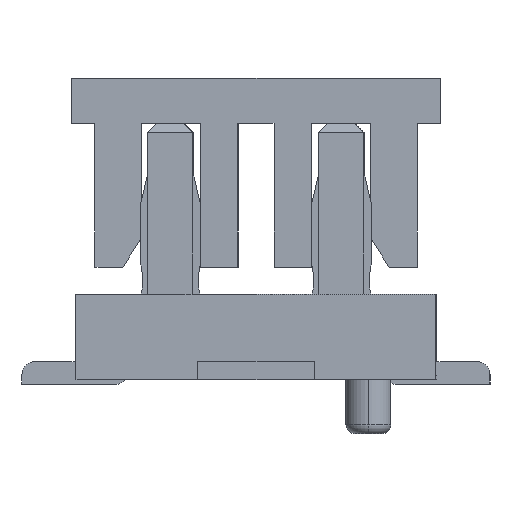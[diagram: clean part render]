
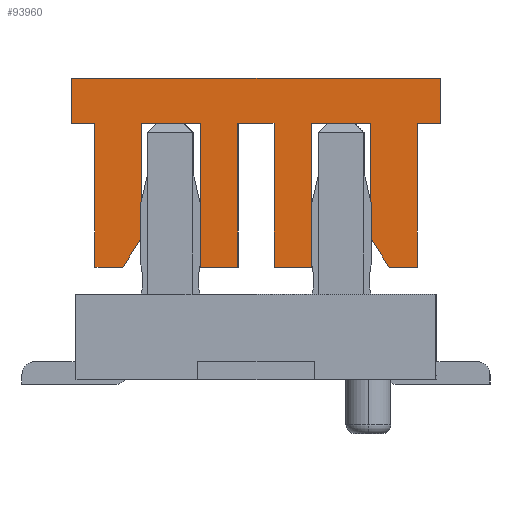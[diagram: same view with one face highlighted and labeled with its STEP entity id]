
A CAD part, left-side view. The second image highlights one B-rep face of the part: STEP entity #93960.
In plain terms, the highlighted planar face has unit normal (-1, 0, 0).
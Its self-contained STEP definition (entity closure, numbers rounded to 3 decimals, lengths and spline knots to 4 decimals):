
#93293=CARTESIAN_POINT('Vertex',(-4.,-0.62,1.25)) ;
#93298=CARTESIAN_POINT('Line Origine',(-4.,-0.41,1.25)) ;
#93302=CARTESIAN_POINT('Vertex',(-4.,-0.2,1.25)) ;
#93329=CARTESIAN_POINT('Line Origine',(-4.,-0.2,2.05)) ;
#93333=CARTESIAN_POINT('Vertex',(-4.,-0.2,2.85)) ;
#93360=CARTESIAN_POINT('Line Origine',(-4.,0.,2.85)) ;
#93364=CARTESIAN_POINT('Vertex',(-4.,0.2,2.85)) ;
#93391=CARTESIAN_POINT('Line Origine',(-4.,0.2,2.05)) ;
#93395=CARTESIAN_POINT('Vertex',(-4.,0.2,1.25)) ;
#93417=CARTESIAN_POINT('Line Origine',(-4.,0.41,1.25)) ;
#93421=CARTESIAN_POINT('Vertex',(-4.,0.62,1.25)) ;
#93448=CARTESIAN_POINT('Line Origine',(-4.,0.62,2.05)) ;
#93452=CARTESIAN_POINT('Vertex',(-4.,0.62,2.85)) ;
#93474=CARTESIAN_POINT('Line Origine',(-4.,0.945,2.85)) ;
#93478=CARTESIAN_POINT('Vertex',(-4.,1.27,2.85)) ;
#93505=CARTESIAN_POINT('Line Origine',(-4.,1.27,2.215)) ;
#93509=CARTESIAN_POINT('Vertex',(-4.,1.27,1.58)) ;
#93536=CARTESIAN_POINT('Line Origine',(-4.,1.375,1.415)) ;
#93540=CARTESIAN_POINT('Vertex',(-4.,1.48,1.25)) ;
#93562=CARTESIAN_POINT('Line Origine',(-4.,1.635,1.25)) ;
#93566=CARTESIAN_POINT('Vertex',(-4.,1.79,1.25)) ;
#93593=CARTESIAN_POINT('Line Origine',(-4.,1.79,2.05)) ;
#93597=CARTESIAN_POINT('Vertex',(-4.,1.79,2.85)) ;
#93619=CARTESIAN_POINT('Line Origine',(-4.,1.92,2.85)) ;
#93623=CARTESIAN_POINT('Vertex',(-4.,2.05,2.85)) ;
#93650=CARTESIAN_POINT('Line Origine',(-4.,2.05,3.1)) ;
#93654=CARTESIAN_POINT('Vertex',(-4.,2.05,3.35)) ;
#93681=CARTESIAN_POINT('Line Origine',(-4.,0.,3.35)) ;
#93685=CARTESIAN_POINT('Vertex',(-4.,-2.05,3.35)) ;
#93712=CARTESIAN_POINT('Line Origine',(-4.,-2.05,3.1)) ;
#93716=CARTESIAN_POINT('Vertex',(-4.,-2.05,2.85)) ;
#93738=CARTESIAN_POINT('Line Origine',(-4.,-1.92,2.85)) ;
#93742=CARTESIAN_POINT('Vertex',(-4.,-1.79,2.85)) ;
#93769=CARTESIAN_POINT('Line Origine',(-4.,-1.79,2.05)) ;
#93773=CARTESIAN_POINT('Vertex',(-4.,-1.79,1.25)) ;
#93795=CARTESIAN_POINT('Line Origine',(-4.,-1.635,1.25)) ;
#93799=CARTESIAN_POINT('Vertex',(-4.,-1.48,1.25)) ;
#93826=CARTESIAN_POINT('Line Origine',(-4.,-1.375,1.415)) ;
#93830=CARTESIAN_POINT('Vertex',(-4.,-1.27,1.58)) ;
#93857=CARTESIAN_POINT('Line Origine',(-4.,-1.27,2.215)) ;
#93861=CARTESIAN_POINT('Vertex',(-4.,-1.27,2.85)) ;
#93883=CARTESIAN_POINT('Line Origine',(-4.,-0.945,2.85)) ;
#93887=CARTESIAN_POINT('Vertex',(-4.,-0.62,2.85)) ;
#93914=CARTESIAN_POINT('Line Origine',(-4.,-0.62,2.05)) ;
#93931=CARTESIAN_POINT('Axis2P3D Location',(-4.,0.,0.)) ;
#93299=DIRECTION('Vector Direction',(0.,1.,0.)) ;
#93330=DIRECTION('Vector Direction',(0.,0.,1.)) ;
#93361=DIRECTION('Vector Direction',(0.,1.,0.)) ;
#93392=DIRECTION('Vector Direction',(0.,0.,-1.)) ;
#93418=DIRECTION('Vector Direction',(0.,1.,0.)) ;
#93449=DIRECTION('Vector Direction',(0.,0.,1.)) ;
#93475=DIRECTION('Vector Direction',(0.,1.,0.)) ;
#93506=DIRECTION('Vector Direction',(0.,0.,-1.)) ;
#93537=DIRECTION('Vector Direction',(0.,0.537,-0.844)) ;
#93563=DIRECTION('Vector Direction',(0.,1.,0.)) ;
#93594=DIRECTION('Vector Direction',(0.,0.,1.)) ;
#93620=DIRECTION('Vector Direction',(0.,1.,0.)) ;
#93651=DIRECTION('Vector Direction',(0.,0.,1.)) ;
#93682=DIRECTION('Vector Direction',(0.,1.,0.)) ;
#93713=DIRECTION('Vector Direction',(0.,0.,1.)) ;
#93739=DIRECTION('Vector Direction',(0.,-1.,0.)) ;
#93770=DIRECTION('Vector Direction',(0.,0.,1.)) ;
#93796=DIRECTION('Vector Direction',(0.,-1.,0.)) ;
#93827=DIRECTION('Vector Direction',(0.,-0.537,-0.844)) ;
#93858=DIRECTION('Vector Direction',(0.,0.,-1.)) ;
#93884=DIRECTION('Vector Direction',(0.,-1.,0.)) ;
#93915=DIRECTION('Vector Direction',(0.,0.,1.)) ;
#93932=DIRECTION('Axis2P3D Direction',(1.,0.,0.)) ;
#93933=DIRECTION('Axis2P3D XDirection',(0.,1.,0.)) ;
#93934=AXIS2_PLACEMENT_3D('Plane Axis2P3D',#93931,#93932,#93933) ;
#93937=ORIENTED_EDGE('',*,*,#93918,.F.) ;
#93938=ORIENTED_EDGE('',*,*,#93889,.F.) ;
#93939=ORIENTED_EDGE('',*,*,#93863,.F.) ;
#93940=ORIENTED_EDGE('',*,*,#93832,.F.) ;
#93941=ORIENTED_EDGE('',*,*,#93801,.F.) ;
#93942=ORIENTED_EDGE('',*,*,#93775,.F.) ;
#93943=ORIENTED_EDGE('',*,*,#93744,.F.) ;
#93944=ORIENTED_EDGE('',*,*,#93718,.F.) ;
#93945=ORIENTED_EDGE('',*,*,#93687,.F.) ;
#93946=ORIENTED_EDGE('',*,*,#93656,.F.) ;
#93947=ORIENTED_EDGE('',*,*,#93625,.F.) ;
#93948=ORIENTED_EDGE('',*,*,#93599,.F.) ;
#93949=ORIENTED_EDGE('',*,*,#93568,.F.) ;
#93950=ORIENTED_EDGE('',*,*,#93542,.F.) ;
#93951=ORIENTED_EDGE('',*,*,#93511,.F.) ;
#93952=ORIENTED_EDGE('',*,*,#93480,.F.) ;
#93953=ORIENTED_EDGE('',*,*,#93454,.F.) ;
#93954=ORIENTED_EDGE('',*,*,#93423,.F.) ;
#93955=ORIENTED_EDGE('',*,*,#93397,.F.) ;
#93956=ORIENTED_EDGE('',*,*,#93366,.F.) ;
#93957=ORIENTED_EDGE('',*,*,#93335,.F.) ;
#93958=ORIENTED_EDGE('',*,*,#93304,.F.) ;
#93300=VECTOR('Line Direction',#93299,1.) ;
#93331=VECTOR('Line Direction',#93330,1.) ;
#93362=VECTOR('Line Direction',#93361,1.) ;
#93393=VECTOR('Line Direction',#93392,1.) ;
#93419=VECTOR('Line Direction',#93418,1.) ;
#93450=VECTOR('Line Direction',#93449,1.) ;
#93476=VECTOR('Line Direction',#93475,1.) ;
#93507=VECTOR('Line Direction',#93506,1.) ;
#93538=VECTOR('Line Direction',#93537,1.) ;
#93564=VECTOR('Line Direction',#93563,1.) ;
#93595=VECTOR('Line Direction',#93594,1.) ;
#93621=VECTOR('Line Direction',#93620,1.) ;
#93652=VECTOR('Line Direction',#93651,1.) ;
#93683=VECTOR('Line Direction',#93682,1.) ;
#93714=VECTOR('Line Direction',#93713,1.) ;
#93740=VECTOR('Line Direction',#93739,1.) ;
#93771=VECTOR('Line Direction',#93770,1.) ;
#93797=VECTOR('Line Direction',#93796,1.) ;
#93828=VECTOR('Line Direction',#93827,1.) ;
#93859=VECTOR('Line Direction',#93858,1.) ;
#93885=VECTOR('Line Direction',#93884,1.) ;
#93916=VECTOR('Line Direction',#93915,1.) ;
#93960=ADVANCED_FACE('\X2\76D65B50\X0\',(#93959),#93935,.F.) ;
#93304=EDGE_CURVE('',#93294,#93303,#93301,.T.) ;
#93335=EDGE_CURVE('',#93303,#93334,#93332,.T.) ;
#93366=EDGE_CURVE('',#93334,#93365,#93363,.T.) ;
#93397=EDGE_CURVE('',#93365,#93396,#93394,.T.) ;
#93423=EDGE_CURVE('',#93396,#93422,#93420,.T.) ;
#93454=EDGE_CURVE('',#93422,#93453,#93451,.T.) ;
#93480=EDGE_CURVE('',#93453,#93479,#93477,.T.) ;
#93511=EDGE_CURVE('',#93479,#93510,#93508,.T.) ;
#93542=EDGE_CURVE('',#93510,#93541,#93539,.T.) ;
#93568=EDGE_CURVE('',#93541,#93567,#93565,.T.) ;
#93599=EDGE_CURVE('',#93567,#93598,#93596,.T.) ;
#93625=EDGE_CURVE('',#93598,#93624,#93622,.T.) ;
#93656=EDGE_CURVE('',#93624,#93655,#93653,.T.) ;
#93687=EDGE_CURVE('',#93655,#93686,#93684,.F.) ;
#93718=EDGE_CURVE('',#93686,#93717,#93715,.F.) ;
#93744=EDGE_CURVE('',#93717,#93743,#93741,.F.) ;
#93775=EDGE_CURVE('',#93743,#93774,#93772,.F.) ;
#93801=EDGE_CURVE('',#93774,#93800,#93798,.F.) ;
#93832=EDGE_CURVE('',#93800,#93831,#93829,.F.) ;
#93863=EDGE_CURVE('',#93831,#93862,#93860,.F.) ;
#93889=EDGE_CURVE('',#93862,#93888,#93886,.F.) ;
#93918=EDGE_CURVE('',#93888,#93294,#93917,.F.) ;
#93936=EDGE_LOOP('',(#93937,#93938,#93939,#93940,#93941,#93942,#93943,#93944,#93945,#93946,#93947,#93948,#93949,#93950,#93951,#93952,#93953,#93954,#93955,#93956,#93957,#93958)) ;
#93959=FACE_OUTER_BOUND('',#93936,.T.) ;
#93301=LINE('Line',#93298,#93300) ;
#93332=LINE('Line',#93329,#93331) ;
#93363=LINE('Line',#93360,#93362) ;
#93394=LINE('Line',#93391,#93393) ;
#93420=LINE('Line',#93417,#93419) ;
#93451=LINE('Line',#93448,#93450) ;
#93477=LINE('Line',#93474,#93476) ;
#93508=LINE('Line',#93505,#93507) ;
#93539=LINE('Line',#93536,#93538) ;
#93565=LINE('Line',#93562,#93564) ;
#93596=LINE('Line',#93593,#93595) ;
#93622=LINE('Line',#93619,#93621) ;
#93653=LINE('Line',#93650,#93652) ;
#93684=LINE('Line',#93681,#93683) ;
#93715=LINE('Line',#93712,#93714) ;
#93741=LINE('Line',#93738,#93740) ;
#93772=LINE('Line',#93769,#93771) ;
#93798=LINE('Line',#93795,#93797) ;
#93829=LINE('Line',#93826,#93828) ;
#93860=LINE('Line',#93857,#93859) ;
#93886=LINE('Line',#93883,#93885) ;
#93917=LINE('Line',#93914,#93916) ;
#93935=PLANE('Plane',#93934) ;
#93294=VERTEX_POINT('',#93293) ;
#93303=VERTEX_POINT('',#93302) ;
#93334=VERTEX_POINT('',#93333) ;
#93365=VERTEX_POINT('',#93364) ;
#93396=VERTEX_POINT('',#93395) ;
#93422=VERTEX_POINT('',#93421) ;
#93453=VERTEX_POINT('',#93452) ;
#93479=VERTEX_POINT('',#93478) ;
#93510=VERTEX_POINT('',#93509) ;
#93541=VERTEX_POINT('',#93540) ;
#93567=VERTEX_POINT('',#93566) ;
#93598=VERTEX_POINT('',#93597) ;
#93624=VERTEX_POINT('',#93623) ;
#93655=VERTEX_POINT('',#93654) ;
#93686=VERTEX_POINT('',#93685) ;
#93717=VERTEX_POINT('',#93716) ;
#93743=VERTEX_POINT('',#93742) ;
#93774=VERTEX_POINT('',#93773) ;
#93800=VERTEX_POINT('',#93799) ;
#93831=VERTEX_POINT('',#93830) ;
#93862=VERTEX_POINT('',#93861) ;
#93888=VERTEX_POINT('',#93887) ;
